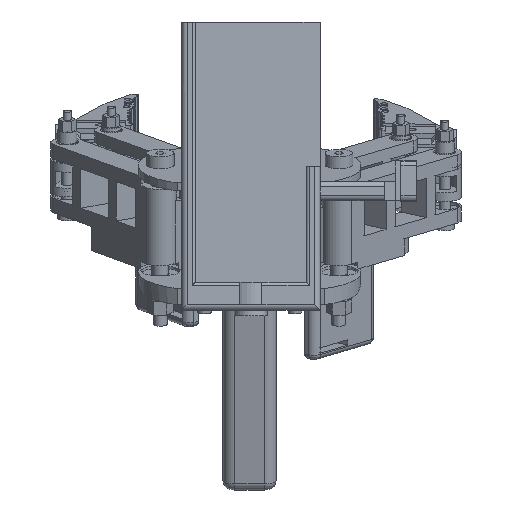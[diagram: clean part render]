
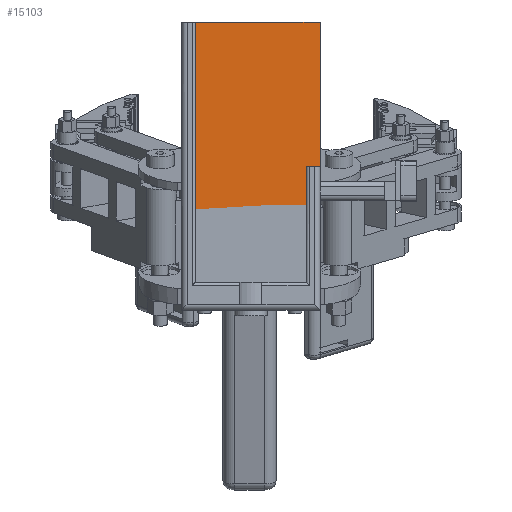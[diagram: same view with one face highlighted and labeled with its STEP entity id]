
A CAD part, top view. The second image highlights one B-rep face of the part: STEP entity #15103.
In plain terms, the highlighted planar face has unit normal (0, 0, 1).
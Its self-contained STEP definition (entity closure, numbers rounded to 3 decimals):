
#11502 = PLANE('',#11503);
#11503 = AXIS2_PLACEMENT_3D('',#11504,#11505,#11506);
#11504 = CARTESIAN_POINT('',(42.265,33.231,
    37.541));
#11505 = DIRECTION('',(1.,0.,0.));
#11506 = DIRECTION('',(0.,0.,-1.));
#12965 = PLANE('',#12966);
#12966 = AXIS2_PLACEMENT_3D('',#12967,#12968,#12969);
#12967 = CARTESIAN_POINT('',(38.549,33.231,
    9.832));
#12968 = DIRECTION('',(0.,1.,0.));
#12969 = DIRECTION('',(0.,0.,1.));
#13055 = VERTEX_POINT('',#13056);
#13056 = CARTESIAN_POINT('',(42.265,33.231,
    10.541));
#13077 = EDGE_CURVE('',#13055,#13078,#13080,.T.);
#13078 = VERTEX_POINT('',#13079);
#13079 = CARTESIAN_POINT('',(42.265,-8.769,
    10.541));
#13080 = SURFACE_CURVE('',#13081,(#13085,#13092),.PCURVE_S1.);
#13081 = LINE('',#13082,#13083);
#13082 = CARTESIAN_POINT('',(42.265,45.231,
    10.541));
#13083 = VECTOR('',#13084,1.);
#13084 = DIRECTION('',(0.,-1.,0.));
#13085 = PCURVE('',#11502,#13086);
#13086 = DEFINITIONAL_REPRESENTATION('',(#13087),#13091);
#13087 = LINE('',#13088,#13089);
#13088 = CARTESIAN_POINT('',(27.,12.));
#13089 = VECTOR('',#13090,1.);
#13090 = DIRECTION('',(0.,-1.));
#13091 = ( GEOMETRIC_REPRESENTATION_CONTEXT(2) 
PARAMETRIC_REPRESENTATION_CONTEXT() REPRESENTATION_CONTEXT('2D SPACE',''
  ) );
#13092 = PCURVE('',#13093,#13098);
#13093 = PLANE('',#13094);
#13094 = AXIS2_PLACEMENT_3D('',#13095,#13096,#13097);
#13095 = CARTESIAN_POINT('',(-5.735,45.231,
    10.541));
#13096 = DIRECTION('',(0.,0.,-1.));
#13097 = DIRECTION('',(-1.,0.,0.));
#13098 = DEFINITIONAL_REPRESENTATION('',(#13099),#13103);
#13099 = LINE('',#13100,#13101);
#13100 = CARTESIAN_POINT('',(-48.,0.));
#13101 = VECTOR('',#13102,1.);
#13102 = DIRECTION('',(0.,-1.));
#13103 = ( GEOMETRIC_REPRESENTATION_CONTEXT(2) 
PARAMETRIC_REPRESENTATION_CONTEXT() REPRESENTATION_CONTEXT('2D SPACE',''
  ) );
#13121 = PLANE('',#13122);
#13122 = AXIS2_PLACEMENT_3D('',#13123,#13124,#13125);
#13123 = CARTESIAN_POINT('',(38.549,-8.769,
    9.832));
#13124 = DIRECTION('',(0.,1.,0.));
#13125 = DIRECTION('',(0.,0.,1.));
#15060 = VERTEX_POINT('',#15061);
#15061 = CARTESIAN_POINT('',(44.265,33.231,
    10.541));
#15082 = EDGE_CURVE('',#13055,#15060,#15083,.T.);
#15083 = SURFACE_CURVE('',#15084,(#15088,#15095),.PCURVE_S1.);
#15084 = LINE('',#15085,#15086);
#15085 = CARTESIAN_POINT('',(-5.735,33.231,
    10.541));
#15086 = VECTOR('',#15087,1.);
#15087 = DIRECTION('',(1.,0.,0.));
#15088 = PCURVE('',#12965,#15089);
#15089 = DEFINITIONAL_REPRESENTATION('',(#15090),#15094);
#15090 = LINE('',#15091,#15092);
#15091 = CARTESIAN_POINT('',(0.71,-44.284));
#15092 = VECTOR('',#15093,1.);
#15093 = DIRECTION('',(0.,1.));
#15094 = ( GEOMETRIC_REPRESENTATION_CONTEXT(2) 
PARAMETRIC_REPRESENTATION_CONTEXT() REPRESENTATION_CONTEXT('2D SPACE',''
  ) );
#15095 = PCURVE('',#13093,#15096);
#15096 = DEFINITIONAL_REPRESENTATION('',(#15097),#15101);
#15097 = LINE('',#15098,#15099);
#15098 = CARTESIAN_POINT('',(0.,-12.));
#15099 = VECTOR('',#15100,1.);
#15100 = DIRECTION('',(-1.,0.));
#15101 = ( GEOMETRIC_REPRESENTATION_CONTEXT(2) 
PARAMETRIC_REPRESENTATION_CONTEXT() REPRESENTATION_CONTEXT('2D SPACE',''
  ) );
#15103 = ADVANCED_FACE('',(#15104),#13093,.F.);
#15104 = FACE_BOUND('',#15105,.T.);
#15105 = EDGE_LOOP('',(#15106,#15107,#15108,#15136,#15164,#15192));
#15106 = ORIENTED_EDGE('',*,*,#13077,.F.);
#15107 = ORIENTED_EDGE('',*,*,#15082,.T.);
#15108 = ORIENTED_EDGE('',*,*,#15109,.F.);
#15109 = EDGE_CURVE('',#15110,#15060,#15112,.T.);
#15110 = VERTEX_POINT('',#15111);
#15111 = CARTESIAN_POINT('',(44.265,85.231,
    10.541));
#15112 = SURFACE_CURVE('',#15113,(#15117,#15124),.PCURVE_S1.);
#15113 = LINE('',#15114,#15115);
#15114 = CARTESIAN_POINT('',(44.265,45.231,
    10.541));
#15115 = VECTOR('',#15116,1.);
#15116 = DIRECTION('',(0.,-1.,0.));
#15117 = PCURVE('',#13093,#15118);
#15118 = DEFINITIONAL_REPRESENTATION('',(#15119),#15123);
#15119 = LINE('',#15120,#15121);
#15120 = CARTESIAN_POINT('',(-50.,0.));
#15121 = VECTOR('',#15122,1.);
#15122 = DIRECTION('',(0.,-1.));
#15123 = ( GEOMETRIC_REPRESENTATION_CONTEXT(2) 
PARAMETRIC_REPRESENTATION_CONTEXT() REPRESENTATION_CONTEXT('2D SPACE',''
  ) );
#15124 = PCURVE('',#15125,#15130);
#15125 = CYLINDRICAL_SURFACE('',#15126,2.);
#15126 = AXIS2_PLACEMENT_3D('',#15127,#15128,#15129);
#15127 = CARTESIAN_POINT('',(42.265,45.231,
    10.541));
#15128 = DIRECTION('',(0.,-1.,0.));
#15129 = DIRECTION('',(0.,0.,-1.));
#15130 = DEFINITIONAL_REPRESENTATION('',(#15131),#15135);
#15131 = LINE('',#15132,#15133);
#15132 = CARTESIAN_POINT('',(1.571,0.));
#15133 = VECTOR('',#15134,1.);
#15134 = DIRECTION('',(0.,1.));
#15135 = ( GEOMETRIC_REPRESENTATION_CONTEXT(2) 
PARAMETRIC_REPRESENTATION_CONTEXT() REPRESENTATION_CONTEXT('2D SPACE',''
  ) );
#15136 = ORIENTED_EDGE('',*,*,#15137,.F.);
#15137 = EDGE_CURVE('',#15138,#15110,#15140,.T.);
#15138 = VERTEX_POINT('',#15139);
#15139 = CARTESIAN_POINT('',(-3.735,85.231,
    10.541));
#15140 = SURFACE_CURVE('',#15141,(#15145,#15152),.PCURVE_S1.);
#15141 = LINE('',#15142,#15143);
#15142 = CARTESIAN_POINT('',(44.265,85.231,
    10.541));
#15143 = VECTOR('',#15144,1.);
#15144 = DIRECTION('',(1.,0.,0.));
#15145 = PCURVE('',#13093,#15146);
#15146 = DEFINITIONAL_REPRESENTATION('',(#15147),#15151);
#15147 = LINE('',#15148,#15149);
#15148 = CARTESIAN_POINT('',(-50.,40.));
#15149 = VECTOR('',#15150,1.);
#15150 = DIRECTION('',(-1.,0.));
#15151 = ( GEOMETRIC_REPRESENTATION_CONTEXT(2) 
PARAMETRIC_REPRESENTATION_CONTEXT() REPRESENTATION_CONTEXT('2D SPACE',''
  ) );
#15152 = PCURVE('',#15153,#15158);
#15153 = PLANE('',#15154);
#15154 = AXIS2_PLACEMENT_3D('',#15155,#15156,#15157);
#15155 = CARTESIAN_POINT('',(42.265,85.231,
    10.541));
#15156 = DIRECTION('',(0.,1.,0.));
#15157 = DIRECTION('',(0.,0.,1.));
#15158 = DEFINITIONAL_REPRESENTATION('',(#15159),#15163);
#15159 = LINE('',#15160,#15161);
#15160 = CARTESIAN_POINT('',(0.,2.));
#15161 = VECTOR('',#15162,1.);
#15162 = DIRECTION('',(0.,1.));
#15163 = ( GEOMETRIC_REPRESENTATION_CONTEXT(2) 
PARAMETRIC_REPRESENTATION_CONTEXT() REPRESENTATION_CONTEXT('2D SPACE',''
  ) );
#15164 = ORIENTED_EDGE('',*,*,#15165,.F.);
#15165 = EDGE_CURVE('',#15166,#15138,#15168,.T.);
#15166 = VERTEX_POINT('',#15167);
#15167 = CARTESIAN_POINT('',(-3.735,-8.769,
    10.541));
#15168 = SURFACE_CURVE('',#15169,(#15173,#15180),.PCURVE_S1.);
#15169 = LINE('',#15170,#15171);
#15170 = CARTESIAN_POINT('',(-3.735,45.231,
    10.541));
#15171 = VECTOR('',#15172,1.);
#15172 = DIRECTION('',(0.,1.,0.));
#15173 = PCURVE('',#13093,#15174);
#15174 = DEFINITIONAL_REPRESENTATION('',(#15175),#15179);
#15175 = LINE('',#15176,#15177);
#15176 = CARTESIAN_POINT('',(-2.,0.));
#15177 = VECTOR('',#15178,1.);
#15178 = DIRECTION('',(0.,1.));
#15179 = ( GEOMETRIC_REPRESENTATION_CONTEXT(2) 
PARAMETRIC_REPRESENTATION_CONTEXT() REPRESENTATION_CONTEXT('2D SPACE',''
  ) );
#15180 = PCURVE('',#15181,#15186);
#15181 = PLANE('',#15182);
#15182 = AXIS2_PLACEMENT_3D('',#15183,#15184,#15185);
#15183 = CARTESIAN_POINT('',(-3.735,45.231,
    37.541));
#15184 = DIRECTION('',(-1.,0.,0.));
#15185 = DIRECTION('',(0.,0.,1.));
#15186 = DEFINITIONAL_REPRESENTATION('',(#15187),#15191);
#15187 = LINE('',#15188,#15189);
#15188 = CARTESIAN_POINT('',(-27.,0.));
#15189 = VECTOR('',#15190,1.);
#15190 = DIRECTION('',(0.,1.));
#15191 = ( GEOMETRIC_REPRESENTATION_CONTEXT(2) 
PARAMETRIC_REPRESENTATION_CONTEXT() REPRESENTATION_CONTEXT('2D SPACE',''
  ) );
#15192 = ORIENTED_EDGE('',*,*,#15193,.T.);
#15193 = EDGE_CURVE('',#15166,#13078,#15194,.T.);
#15194 = SURFACE_CURVE('',#15195,(#15199,#15206),.PCURVE_S1.);
#15195 = LINE('',#15196,#15197);
#15196 = CARTESIAN_POINT('',(-5.735,-8.769,
    10.541));
#15197 = VECTOR('',#15198,1.);
#15198 = DIRECTION('',(1.,0.,0.));
#15199 = PCURVE('',#13093,#15200);
#15200 = DEFINITIONAL_REPRESENTATION('',(#15201),#15205);
#15201 = LINE('',#15202,#15203);
#15202 = CARTESIAN_POINT('',(0.,-54.));
#15203 = VECTOR('',#15204,1.);
#15204 = DIRECTION('',(-1.,0.));
#15205 = ( GEOMETRIC_REPRESENTATION_CONTEXT(2) 
PARAMETRIC_REPRESENTATION_CONTEXT() REPRESENTATION_CONTEXT('2D SPACE',''
  ) );
#15206 = PCURVE('',#13121,#15207);
#15207 = DEFINITIONAL_REPRESENTATION('',(#15208),#15212);
#15208 = LINE('',#15209,#15210);
#15209 = CARTESIAN_POINT('',(0.71,-44.284));
#15210 = VECTOR('',#15211,1.);
#15211 = DIRECTION('',(0.,1.));
#15212 = ( GEOMETRIC_REPRESENTATION_CONTEXT(2) 
PARAMETRIC_REPRESENTATION_CONTEXT() REPRESENTATION_CONTEXT('2D SPACE',''
  ) );
